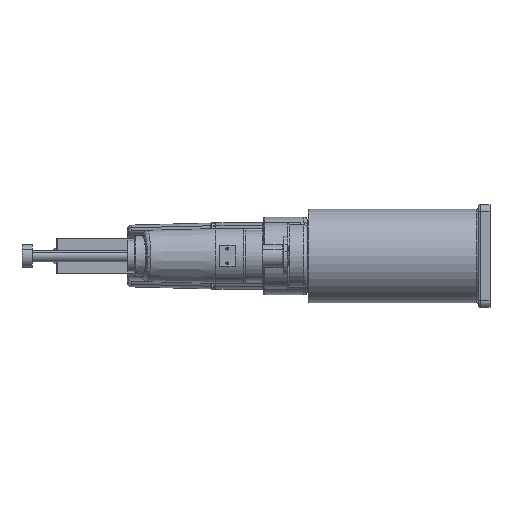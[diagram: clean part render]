
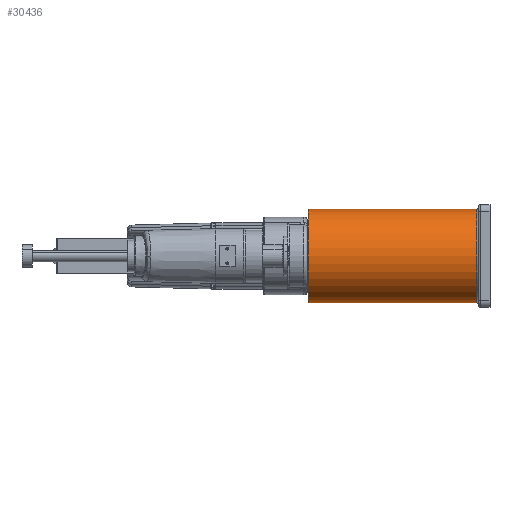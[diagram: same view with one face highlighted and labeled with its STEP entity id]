
A CAD part, left-side view. The second image highlights one B-rep face of the part: STEP entity #30436.
In plain terms, the highlighted cylindrical face has radius 82 mm (diameter 164 mm), a partial arc.
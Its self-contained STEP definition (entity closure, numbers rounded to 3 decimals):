
#262 = ORIENTED_EDGE ( 'NONE', *, *, #14942, .F. ) ;
#6410 = CARTESIAN_POINT ( 'NONE',  ( 0., 318., -82. ) ) ;
#6783 = VERTEX_POINT ( 'NONE', #6410 ) ;
#8228 = CARTESIAN_POINT ( 'NONE',  ( 0., 298., -82. ) ) ;
#10572 = VECTOR ( 'NONE', #38953, 1000. ) ;
#10962 = FACE_OUTER_BOUND ( 'NONE', #38304, .T. ) ;
#11965 = DIRECTION ( 'NONE',  ( 0., -1., 0. ) ) ;
#12244 = DIRECTION ( 'NONE',  ( 0., 0., 1. ) ) ;
#12255 = ORIENTED_EDGE ( 'NONE', *, *, #41247, .T. ) ;
#13136 = CIRCLE ( 'NONE', #20610, 82. ) ;
#14023 = ORIENTED_EDGE ( 'NONE', *, *, #34480, .T. ) ;
#14723 = DIRECTION ( 'NONE',  ( 0., 0., 1. ) ) ;
#14942 = EDGE_CURVE ( 'NONE', #18682, #29915, #18161, .T. ) ;
#15128 = CARTESIAN_POINT ( 'NONE',  ( 0., 23., 82. ) ) ;
#15630 = CYLINDRICAL_SURFACE ( 'NONE', #25805, 82. ) ;
#16217 = CIRCLE ( 'NONE', #39420, 82. ) ;
#18161 = LINE ( 'NONE', #27682, #10572 ) ;
#18682 = VERTEX_POINT ( 'NONE', #19288 ) ;
#19288 = CARTESIAN_POINT ( 'NONE',  ( 0., 318., 82. ) ) ;
#19628 = DIRECTION ( 'NONE',  ( 0., 1., 0. ) ) ;
#20610 = AXIS2_PLACEMENT_3D ( 'NONE', #48231, #36860, #14723 ) ;
#21673 = DIRECTION ( 'NONE',  ( 0., -1., 0. ) ) ;
#24433 = ORIENTED_EDGE ( 'NONE', *, *, #35884, .F. ) ;
#25274 = CARTESIAN_POINT ( 'NONE',  ( 0., 298., 0. ) ) ;
#25805 = AXIS2_PLACEMENT_3D ( 'NONE', #25274, #21673, #36886 ) ;
#27682 = CARTESIAN_POINT ( 'NONE',  ( 0., 298., 82. ) ) ;
#29915 = VERTEX_POINT ( 'NONE', #15128 ) ;
#30436 = ADVANCED_FACE ( 'NONE', ( #10962 ), #15630, .T. ) ;
#30766 = CARTESIAN_POINT ( 'NONE',  ( 0., 23., -82. ) ) ;
#34016 = LINE ( 'NONE', #8228, #38690 ) ;
#34480 = EDGE_CURVE ( 'NONE', #46796, #29915, #16217, .T. ) ;
#34547 = CARTESIAN_POINT ( 'NONE',  ( 0., 23., 0. ) ) ;
#35884 = EDGE_CURVE ( 'NONE', #6783, #18682, #13136, .T. ) ;
#36860 = DIRECTION ( 'NONE',  ( 0., 1., 0. ) ) ;
#36886 = DIRECTION ( 'NONE',  ( 0., 0., -1. ) ) ;
#38304 = EDGE_LOOP ( 'NONE', ( #262, #24433, #12255, #14023 ) ) ;
#38690 = VECTOR ( 'NONE', #11965, 1000. ) ;
#38953 = DIRECTION ( 'NONE',  ( 0., -1., 0. ) ) ;
#39420 = AXIS2_PLACEMENT_3D ( 'NONE', #34547, #19628, #12244 ) ;
#41247 = EDGE_CURVE ( 'NONE', #6783, #46796, #34016, .T. ) ;
#46796 = VERTEX_POINT ( 'NONE', #30766 ) ;
#48231 = CARTESIAN_POINT ( 'NONE',  ( 0., 318., 0. ) ) ;
